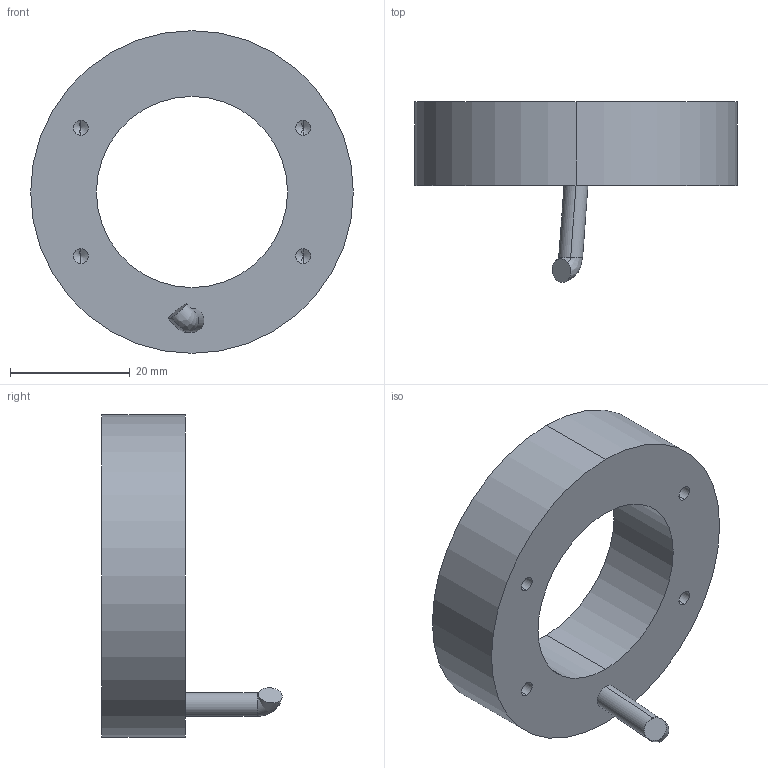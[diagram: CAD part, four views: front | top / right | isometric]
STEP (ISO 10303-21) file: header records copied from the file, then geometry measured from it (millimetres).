
FILE_DESCRIPTION (( 'STEP AP214' ), '1' );
FILE_NAME ('L1033.STEP', '2021-03-15T13:53:36', ( '' ), ( '' ), 'SwSTEP 2.0', 'SolidWorks 2021', '' );
FILE_SCHEMA (( 'AUTOMOTIVE_DESIGN' ));
Length unit declared in the file: millimetre
Products named in the file (1): L1033
Bounding box: 54 x 30.2 x 54 mm (x, y, z)
Volume: 18792.5 mm3; surface area: 7655 mm2
Topology: 2 solids, 2 shells, 37 faces, 80 edges, 46 vertices
Faces by surface type: cylinder 18, cone 8, plane 7, bspline 4
Entity records: 1322 total; most frequent: CARTESIAN_POINT 244, DIRECTION 178, ORIENTED_EDGE 144, AXIS2_PLACEMENT_3D 76, EDGE_CURVE 72, EDGE_LOOP 46, VERTEX_POINT 46, CIRCLE 42
